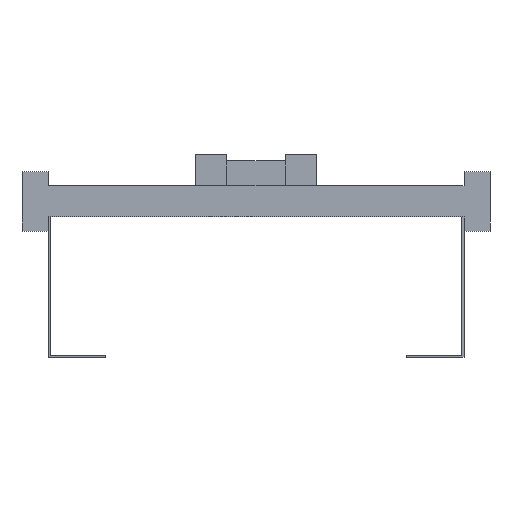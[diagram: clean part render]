
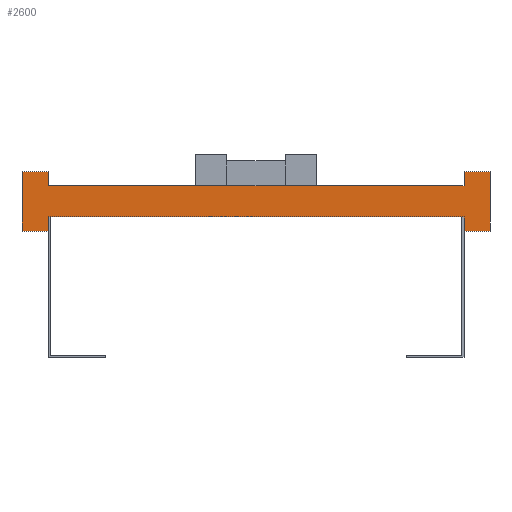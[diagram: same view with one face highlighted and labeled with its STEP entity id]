
A CAD part, front view. The second image highlights one B-rep face of the part: STEP entity #2600.
In plain terms, the highlighted planar face has unit normal (0, -1, 0).
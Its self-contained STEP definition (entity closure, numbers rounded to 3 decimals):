
#1=DIRECTION('',(0.,0.,1.));
#2=VECTOR('',#1,13.5);
#3=CARTESIAN_POINT('',(200.,0.,-28.5));
#4=LINE('',#3,#2);
#5=DIRECTION('',(0.,0.,-1.));
#6=VECTOR('',#5,13.5);
#7=CARTESIAN_POINT('',(-200.,0.,-15.));
#8=LINE('',#7,#6);
#9=DIRECTION('',(-1.,0.,0.));
#10=VECTOR('',#9,25.);
#11=CARTESIAN_POINT('',(-200.,0.,-28.5));
#12=LINE('',#11,#10);
#13=DIRECTION('',(0.,0.,1.));
#14=VECTOR('',#13,57.);
#15=CARTESIAN_POINT('',(-225.,0.,-28.5));
#16=LINE('',#15,#14);
#17=DIRECTION('',(1.,0.,0.));
#18=VECTOR('',#17,25.);
#19=CARTESIAN_POINT('',(-225.,0.,28.5));
#20=LINE('',#19,#18);
#21=DIRECTION('',(0.,0.,-1.));
#22=VECTOR('',#21,13.5);
#23=CARTESIAN_POINT('',(-200.,0.,28.5));
#24=LINE('',#23,#22);
#25=DIRECTION('',(0.,0.,1.));
#26=VECTOR('',#25,13.5);
#27=CARTESIAN_POINT('',(200.,0.,15.));
#28=LINE('',#27,#26);
#29=DIRECTION('',(1.,0.,0.));
#30=VECTOR('',#29,25.);
#31=CARTESIAN_POINT('',(200.,0.,28.5));
#32=LINE('',#31,#30);
#33=DIRECTION('',(0.,0.,-1.));
#34=VECTOR('',#33,57.);
#35=CARTESIAN_POINT('',(225.,0.,28.5));
#36=LINE('',#35,#34);
#37=DIRECTION('',(-1.,0.,0.));
#38=VECTOR('',#37,25.);
#39=CARTESIAN_POINT('',(225.,0.,-28.5));
#40=LINE('',#39,#38);
#1945=DIRECTION('',(1.,0.,0.));
#1946=VECTOR('',#1945,400.);
#1947=CARTESIAN_POINT('',(-200.,0.,-15.));
#1948=LINE('',#1947,#1946);
#1957=DIRECTION('',(1.,0.,0.));
#1958=VECTOR('',#1957,400.);
#1959=CARTESIAN_POINT('',(-200.,0.,15.));
#1960=LINE('',#1959,#1958);
#1961=CARTESIAN_POINT('',(-225.,0.,28.5));
#1962=CARTESIAN_POINT('',(-200.,0.,28.5));
#1963=VERTEX_POINT('',#1961);
#1964=VERTEX_POINT('',#1962);
#1965=CARTESIAN_POINT('',(-200.,0.,-28.5));
#1966=CARTESIAN_POINT('',(-225.,0.,-28.5));
#1967=VERTEX_POINT('',#1965);
#1968=VERTEX_POINT('',#1966);
#1969=CARTESIAN_POINT('',(225.,0.,28.5));
#1970=CARTESIAN_POINT('',(225.,0.,-28.5));
#1971=VERTEX_POINT('',#1969);
#1972=VERTEX_POINT('',#1970);
#1973=CARTESIAN_POINT('',(200.,0.,-28.5));
#1974=VERTEX_POINT('',#1973);
#1975=CARTESIAN_POINT('',(200.,0.,28.5));
#1976=VERTEX_POINT('',#1975);
#1993=CARTESIAN_POINT('',(-200.,0.,-15.));
#1995=VERTEX_POINT('',#1993);
#1997=CARTESIAN_POINT('',(-200.,0.,15.));
#1999=VERTEX_POINT('',#1997);
#2001=CARTESIAN_POINT('',(200.,0.,-15.));
#2003=VERTEX_POINT('',#2001);
#2005=CARTESIAN_POINT('',(200.,0.,15.));
#2007=VERTEX_POINT('',#2005);
#2569=CARTESIAN_POINT('',(0.,0.,0.));
#2570=DIRECTION('',(0.,1.,0.));
#2571=DIRECTION('',(1.,0.,0.));
#2572=AXIS2_PLACEMENT_3D('',#2569,#2570,#2571);
#2573=PLANE('',#2572);
#2575=ORIENTED_EDGE('',*,*,#2574,.T.);
#2577=ORIENTED_EDGE('',*,*,#2576,.F.);
#2579=ORIENTED_EDGE('',*,*,#2578,.T.);
#2581=ORIENTED_EDGE('',*,*,#2580,.T.);
#2583=ORIENTED_EDGE('',*,*,#2582,.T.);
#2585=ORIENTED_EDGE('',*,*,#2584,.T.);
#2587=ORIENTED_EDGE('',*,*,#2586,.T.);
#2589=ORIENTED_EDGE('',*,*,#2588,.T.);
#2591=ORIENTED_EDGE('',*,*,#2590,.T.);
#2593=ORIENTED_EDGE('',*,*,#2592,.T.);
#2595=ORIENTED_EDGE('',*,*,#2594,.T.);
#2597=ORIENTED_EDGE('',*,*,#2596,.T.);
#2598=EDGE_LOOP('',(#2575,#2577,#2579,#2581,#2583,#2585,#2587,#2589,#2591,#2593,
#2595,#2597));
#2599=FACE_OUTER_BOUND('',#2598,.F.);
#2600=ADVANCED_FACE('',(#2599),#2573,.F.);
#2574=EDGE_CURVE('',#1974,#2003,#4,.T.);
#2576=EDGE_CURVE('',#1995,#2003,#1948,.T.);
#2578=EDGE_CURVE('',#1995,#1967,#8,.T.);
#2580=EDGE_CURVE('',#1967,#1968,#12,.T.);
#2582=EDGE_CURVE('',#1968,#1963,#16,.T.);
#2584=EDGE_CURVE('',#1963,#1964,#20,.T.);
#2586=EDGE_CURVE('',#1964,#1999,#24,.T.);
#2588=EDGE_CURVE('',#1999,#2007,#1960,.T.);
#2590=EDGE_CURVE('',#2007,#1976,#28,.T.);
#2592=EDGE_CURVE('',#1976,#1971,#32,.T.);
#2594=EDGE_CURVE('',#1971,#1972,#36,.T.);
#2596=EDGE_CURVE('',#1972,#1974,#40,.T.);
